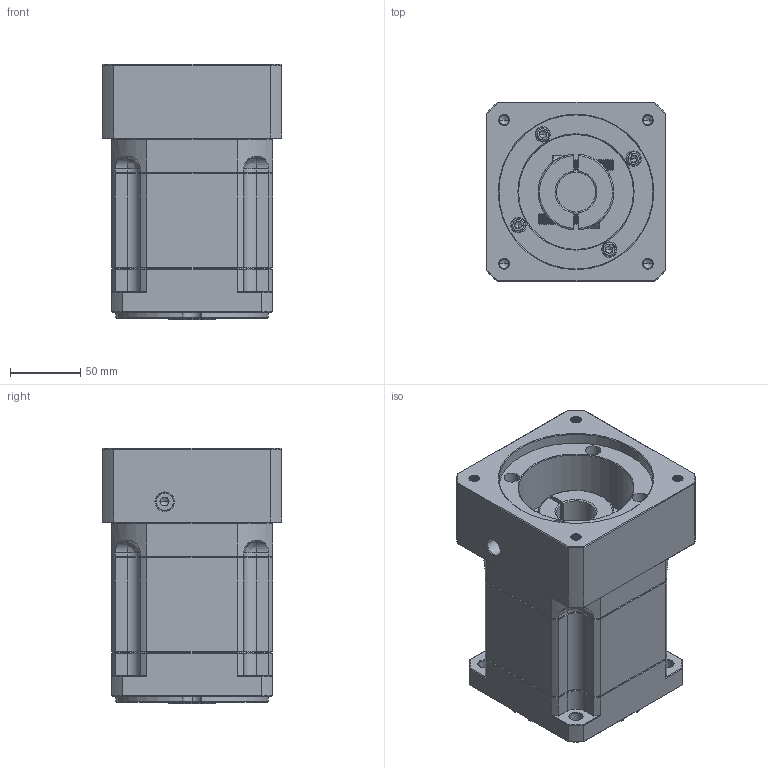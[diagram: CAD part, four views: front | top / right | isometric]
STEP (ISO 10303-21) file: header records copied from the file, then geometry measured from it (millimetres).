
FILE_DESCRIPTION (( 'STEP AP214' ), '1' );
FILE_NAME ('ZB115A-K25-L2-28-110-145-M8.step', '2023-03-02T09:05:24', ( '' ), ( 'Microsoft' ), 'SwSTEP 2.0', 'SolidWorks 2016', '' );
FILE_SCHEMA (( 'AUTOMOTIVE_DESIGN' ));
Length unit declared in the file: millimetre
Products named in the file (1): ZB115A-K25-L2-28-110-145-M8
Bounding box: 128 x 128 x 182 mm (x, y, z)
Volume: 2044222 mm3; surface area: 193664 mm2
Topology: 6 solids, 6 shells, 2057 faces, 5313 edges, 3350 vertices
Faces by surface type: plane 956, cylinder 406, cone 359, bspline 316, torus 20
Entity records: 107474 total; most frequent: CARTESIAN_POINT 37372, ORIENTED_EDGE 10562, DIRECTION 8710, EDGE_CURVE 5281, VERTEX_POINT 3350, LINE 3318, VECTOR 3318, AXIS2_PLACEMENT_3D 2696
